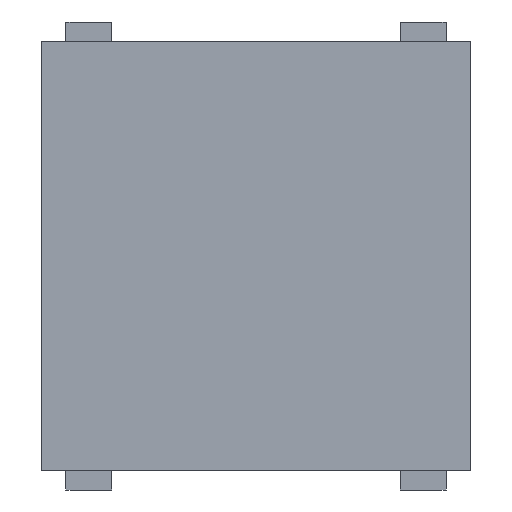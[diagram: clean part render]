
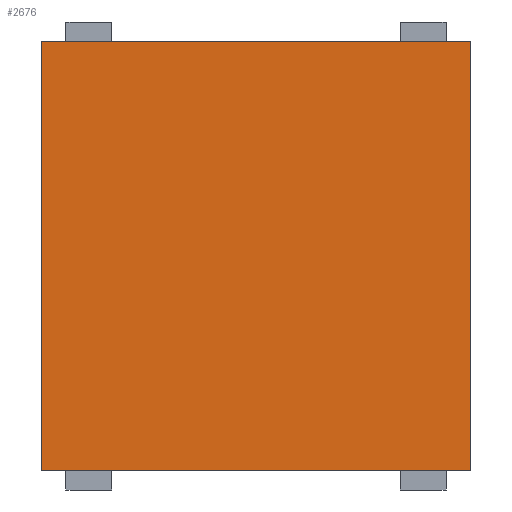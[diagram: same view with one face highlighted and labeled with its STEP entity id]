
A CAD part, front view. The second image highlights one B-rep face of the part: STEP entity #2676.
In plain terms, the highlighted planar face has unit normal (0, -1, 0).
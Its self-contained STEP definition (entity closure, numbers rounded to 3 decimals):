
#2549=DIRECTION('',(0.,0.,1.));
#2550=VECTOR('',#2549,4.5);
#2551=CARTESIAN_POINT('',(2.25,-0.05,-2.25));
#2552=LINE('',#2551,#2550);
#2556=DIRECTION('',(1.,0.,0.));
#2557=VECTOR('',#2556,4.5);
#2558=CARTESIAN_POINT('',(-2.25,-0.05,-2.25));
#2559=LINE('',#2558,#2557);
#2563=DIRECTION('',(0.,0.,-1.));
#2564=VECTOR('',#2563,4.5);
#2565=CARTESIAN_POINT('',(-2.25,-0.05,2.25));
#2566=LINE('',#2565,#2564);
#2570=DIRECTION('',(-1.,0.,0.));
#2571=VECTOR('',#2570,4.5);
#2572=CARTESIAN_POINT('',(2.25,-0.05,2.25));
#2573=LINE('',#2572,#2571);
#2585=CARTESIAN_POINT('',(2.25,-0.05,-2.25));
#2586=CARTESIAN_POINT('',(2.25,-0.05,2.25));
#2587=VERTEX_POINT('',#2585);
#2588=VERTEX_POINT('',#2586);
#2589=CARTESIAN_POINT('',(-2.25,-0.05,2.25));
#2590=VERTEX_POINT('',#2589);
#2591=CARTESIAN_POINT('',(-2.25,-0.05,-2.25));
#2592=VERTEX_POINT('',#2591);
#2665=CARTESIAN_POINT('',(0.,-0.05,0.));
#2666=DIRECTION('',(0.,-1.,0.));
#2667=DIRECTION('',(-1.,0.,0.));
#2668=AXIS2_PLACEMENT_3D('',#2665,#2666,#2667);
#2669=PLANE('',#2668);
#2670=ORIENTED_EDGE('',*,*,#2617,.F.);
#2671=ORIENTED_EDGE('',*,*,#2632,.F.);
#2672=ORIENTED_EDGE('',*,*,#2646,.F.);
#2673=ORIENTED_EDGE('',*,*,#2659,.F.);
#2674=EDGE_LOOP('',(#2670,#2671,#2672,#2673));
#2675=FACE_OUTER_BOUND('',#2674,.F.);
#2617=EDGE_CURVE('',#2587,#2588,#2552,.T.);
#2632=EDGE_CURVE('',#2592,#2587,#2559,.T.);
#2646=EDGE_CURVE('',#2590,#2592,#2566,.T.);
#2659=EDGE_CURVE('',#2588,#2590,#2573,.T.);
#2676=ADVANCED_FACE('',(#2675),#2669,.T.);
